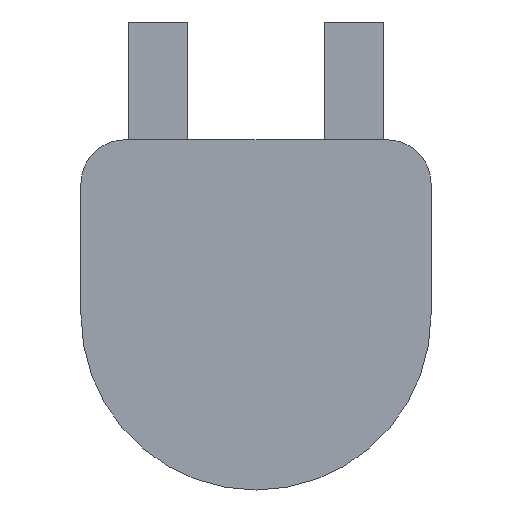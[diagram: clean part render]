
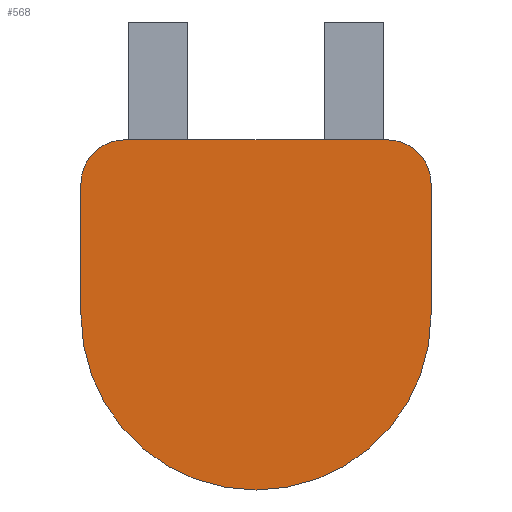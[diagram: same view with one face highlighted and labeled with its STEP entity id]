
A CAD part, front view. The second image highlights one B-rep face of the part: STEP entity #568.
In plain terms, the highlighted planar face has unit normal (0, -1, 0).
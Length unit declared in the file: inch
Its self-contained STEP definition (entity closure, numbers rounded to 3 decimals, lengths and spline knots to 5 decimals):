
#7 = CARTESIAN_POINT ( 'NONE',  ( 0., 0., 0. ) ) ;
#9 = CARTESIAN_POINT ( 'NONE',  ( 0.75, 0., 0. ) ) ;
#10 = CARTESIAN_POINT ( 'NONE',  ( 0.75, 0., 0. ) ) ;
#18 = AXIS2_PLACEMENT_3D ( 'NONE', #368, #92, #132 ) ;
#31 = CARTESIAN_POINT ( 'NONE',  ( 0., 0., -0.75 ) ) ;
#35 = ORIENTED_EDGE ( 'NONE', *, *, #88, .F. ) ;
#42 = CIRCLE ( 'NONE', #545, 0.75 ) ;
#43 = ORIENTED_EDGE ( 'NONE', *, *, #496, .F. ) ;
#54 = FACE_OUTER_BOUND ( 'NONE', #515, .T. ) ;
#58 = CARTESIAN_POINT ( 'NONE',  ( 0.75, 0., 0.5625 ) ) ;
#67 = DIRECTION ( 'NONE',  ( 0., 0., 1. ) ) ;
#69 = ORIENTED_EDGE ( 'NONE', *, *, #241, .F. ) ;
#88 = EDGE_CURVE ( 'NONE', #302, #160, #255, .T. ) ;
#92 = DIRECTION ( 'NONE',  ( 0., 1., 0. ) ) ;
#93 = DIRECTION ( 'NONE',  ( 0., 0., 1. ) ) ;
#116 = VECTOR ( 'NONE', #93, 39.37008 ) ;
#121 = CARTESIAN_POINT ( 'NONE',  ( 0.5625, 0., 0.75 ) ) ;
#130 = VERTEX_POINT ( 'NONE', #31 ) ;
#132 = DIRECTION ( 'NONE',  ( 0., 0., 1. ) ) ;
#140 = PLANE ( 'NONE',  #18 ) ;
#142 = CIRCLE ( 'NONE', #395, 0.1875 ) ;
#147 = CARTESIAN_POINT ( 'NONE',  ( -0.75, 0., 0. ) ) ;
#153 = EDGE_CURVE ( 'NONE', #206, #302, #142, .T. ) ;
#160 = VERTEX_POINT ( 'NONE', #121 ) ;
#161 = CIRCLE ( 'NONE', #365, 0.75 ) ;
#162 = AXIS2_PLACEMENT_3D ( 'NONE', #180, #319, #359 ) ;
#173 = VERTEX_POINT ( 'NONE', #9 ) ;
#180 = CARTESIAN_POINT ( 'NONE',  ( 0.5625, 0., 0.5625 ) ) ;
#181 = DIRECTION ( 'NONE',  ( 0., 1., 0. ) ) ;
#184 = DIRECTION ( 'NONE',  ( 0., 0., -1. ) ) ;
#194 = CARTESIAN_POINT ( 'NONE',  ( -0.5625, 0., 0.75 ) ) ;
#206 = VERTEX_POINT ( 'NONE', #275 ) ;
#208 = DIRECTION ( 'NONE',  ( 0., 0., 1. ) ) ;
#229 = LINE ( 'NONE', #10, #259 ) ;
#241 = EDGE_CURVE ( 'NONE', #130, #312, #161, .T. ) ;
#255 = LINE ( 'NONE', #473, #270 ) ;
#259 = VECTOR ( 'NONE', #184, 39.37008 ) ;
#268 = DIRECTION ( 'NONE',  ( 0., 1., 0. ) ) ;
#270 = VECTOR ( 'NONE', #425, 39.37008 ) ;
#275 = CARTESIAN_POINT ( 'NONE',  ( -0.75, 0., 0.5625 ) ) ;
#302 = VERTEX_POINT ( 'NONE', #194 ) ;
#312 = VERTEX_POINT ( 'NONE', #333 ) ;
#319 = DIRECTION ( 'NONE',  ( 0., 1., 0. ) ) ;
#333 = CARTESIAN_POINT ( 'NONE',  ( -0.75, 0., 0. ) ) ;
#343 = CIRCLE ( 'NONE', #162, 0.1875 ) ;
#359 = DIRECTION ( 'NONE',  ( 0., 0., 1. ) ) ;
#365 = AXIS2_PLACEMENT_3D ( 'NONE', #470, #268, #67 ) ;
#368 = CARTESIAN_POINT ( 'NONE',  ( 0., 0., 0. ) ) ;
#372 = ORIENTED_EDGE ( 'NONE', *, *, #503, .F. ) ;
#383 = CARTESIAN_POINT ( 'NONE',  ( -0.5625, 0., 0.5625 ) ) ;
#395 = AXIS2_PLACEMENT_3D ( 'NONE', #383, #565, #208 ) ;
#425 = DIRECTION ( 'NONE',  ( 1., 0., 0. ) ) ;
#444 = VERTEX_POINT ( 'NONE', #58 ) ;
#446 = ORIENTED_EDGE ( 'NONE', *, *, #549, .F. ) ;
#451 = ORIENTED_EDGE ( 'NONE', *, *, #153, .F. ) ;
#453 = LINE ( 'NONE', #147, #116 ) ;
#470 = CARTESIAN_POINT ( 'NONE',  ( 0., 0., 0. ) ) ;
#473 = CARTESIAN_POINT ( 'NONE',  ( 0., 0., 0.75 ) ) ;
#496 = EDGE_CURVE ( 'NONE', #312, #206, #453, .T. ) ;
#503 = EDGE_CURVE ( 'NONE', #173, #130, #42, .T. ) ;
#515 = EDGE_LOOP ( 'NONE', ( #43, #69, #372, #529, #446, #35, #451 ) ) ;
#528 = EDGE_CURVE ( 'NONE', #444, #173, #229, .T. ) ;
#529 = ORIENTED_EDGE ( 'NONE', *, *, #528, .F. ) ;
#543 = DIRECTION ( 'NONE',  ( 0., 0., 1. ) ) ;
#545 = AXIS2_PLACEMENT_3D ( 'NONE', #7, #181, #543 ) ;
#549 = EDGE_CURVE ( 'NONE', #160, #444, #343, .T. ) ;
#565 = DIRECTION ( 'NONE',  ( 0., 1., 0. ) ) ;
#568 = ADVANCED_FACE ( 'NONE', ( #54 ), #140, .F. ) ;
